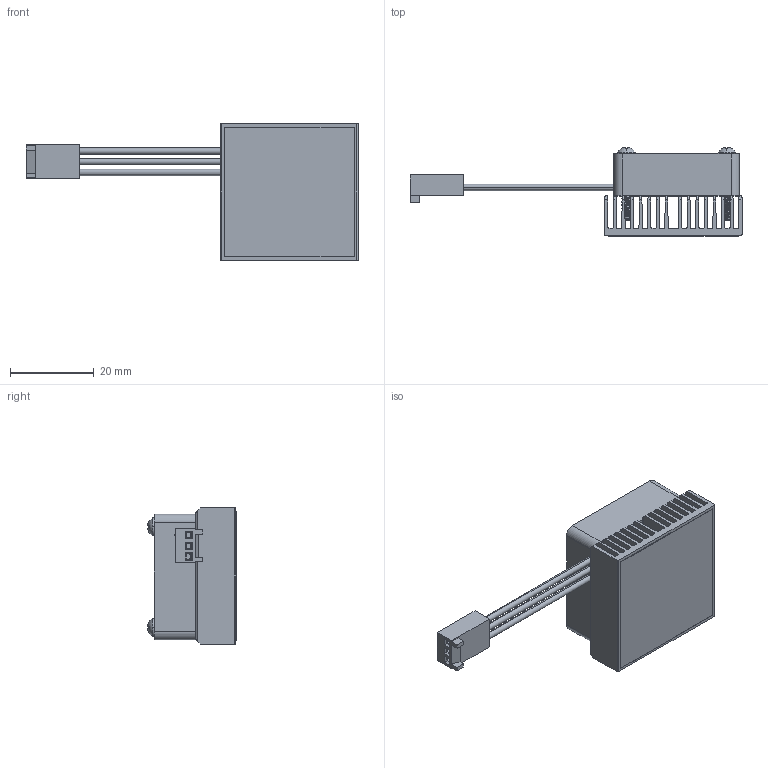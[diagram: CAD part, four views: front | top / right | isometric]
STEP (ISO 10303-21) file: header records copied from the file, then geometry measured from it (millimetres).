
FILE_DESCRIPTION (( 'STEP AP214' ), '1' );
FILE_NAME ('FI33-1.7.STEP', '2023-03-07T22:14:23', ( '' ), ( '' ), 'SwSTEP 2.0', 'SolidWorks 2020', '' );
FILE_SCHEMA (( 'AUTOMOTIVE_DESIGN' ));
Length unit declared in the file: millimetre
Products named in the file (1): FI33-1.7
Bounding box: 79.24 x 21.12 x 32.5 mm (x, y, z)
Volume: 9588.3 mm3; surface area: 18704.1 mm2
Topology: 7 solids, 7 shells, 836 faces, 2425 edges, 1612 vertices
Faces by surface type: cylinder 381, plane 281, bspline 118, cone 40, sphere 8, torus 8
Entity records: 62315 total; most frequent: CARTESIAN_POINT 33784, ORIENTED_EDGE 4850, DIRECTION 3227, EDGE_CURVE 2425, VERTEX_POINT 1612, LINE 1153, VECTOR 1153, AXIS2_PLACEMENT_3D 1037
